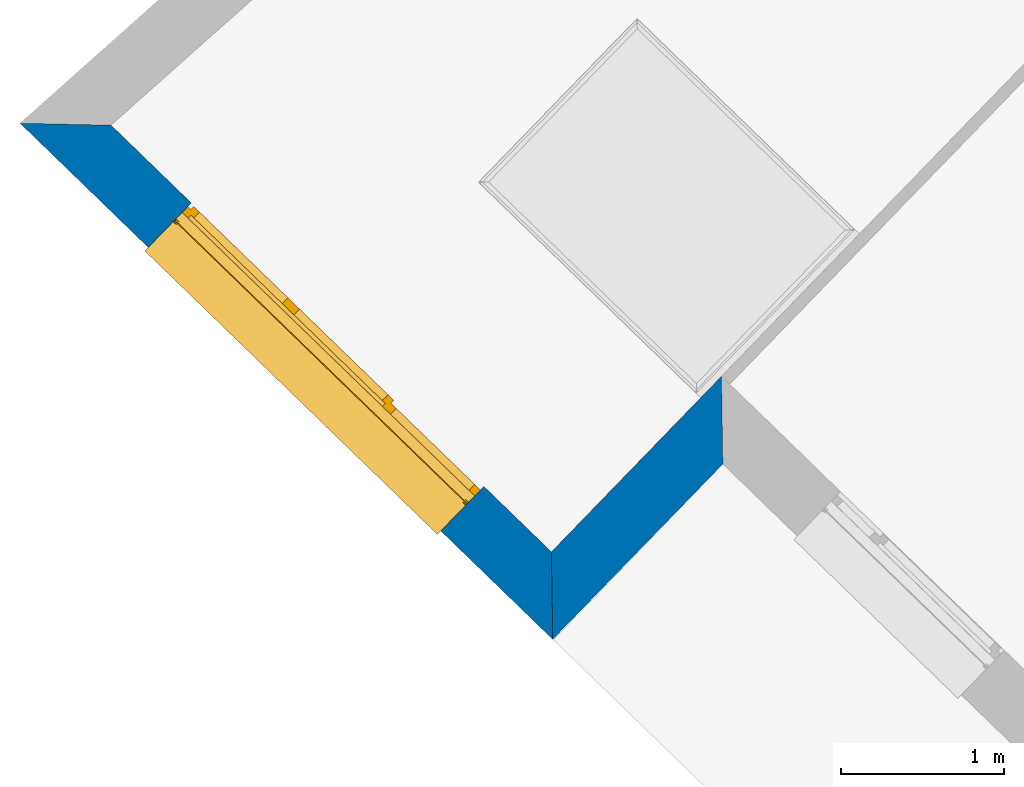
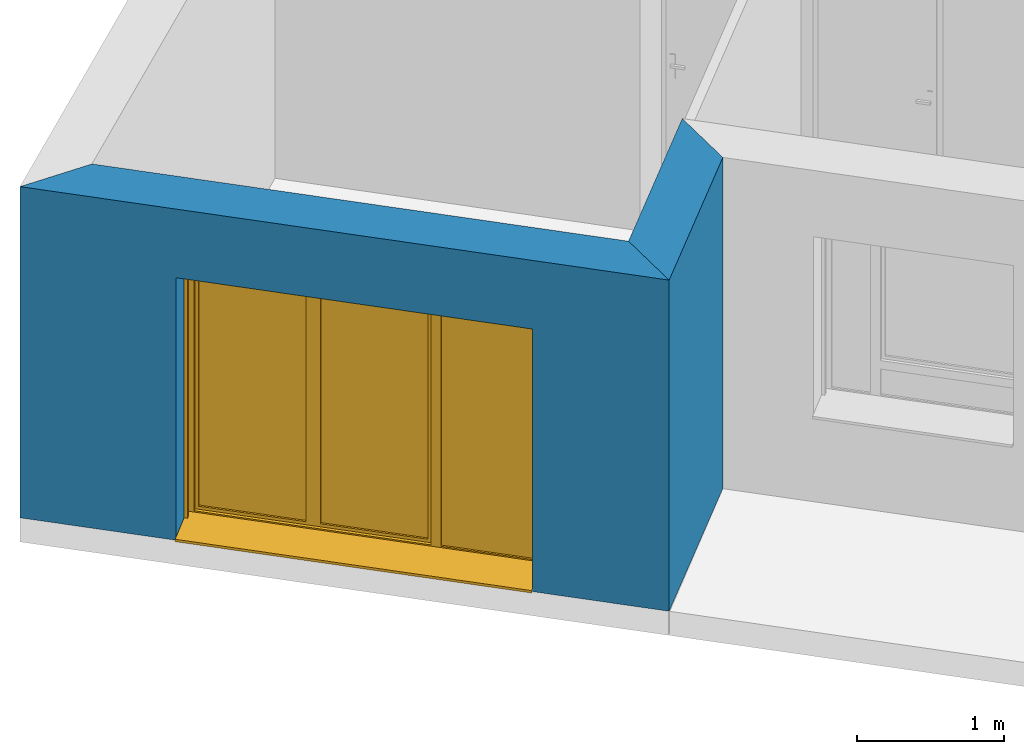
# One storey, part 17 of 195: 2 walls, 1 window, 1 opening.
"""IFC2X3 building model written with IfcOpenShell, lengths in metres."""

import ifcopenshell
import ifcopenshell.guid

model = None  # the IFC model being written
_history = None  # IfcOwnerHistory: only IFC2X3 demands one
_inside = {}  # id of a spatial element -> (the spatial element, [elements in it])
_under = {}  # id of a project, library or spatial element -> (it, [spatial elements below it])
_declared = {}  # id of a project -> (the project, [libraries it declares])
_typed = {}  # id of a type object -> (the type object, [elements of that type])
_made_of = {}  # id of a material, layer set ... -> (it, [elements and type objects made of it])


def new_model(schema):
    """Start an empty IFC model of exactly this schema.

    Asked for "IFC4X3", IfcOpenShell would pick the latest addendum, in which some entities
    have other attributes; the version numbers below select the first issue.
    IFC2X3 requires an IfcOwnerHistory on every rooted entity: one is made here for all.
    """
    global model, _history
    if schema == "IFC4X3":
        model = ifcopenshell.file(schema_version=(4, 3, 0, 0))
    else:
        model = ifcopenshell.file(schema=schema)
    _inside.clear()
    _under.clear()
    _declared.clear()
    _typed.clear()
    _made_of.clear()
    _history = None
    if model.schema == "IFC2X3":
        org = make("IfcOrganization", Name="unknown")
        user = make(
            "IfcPersonAndOrganization",
            ThePerson=make("IfcPerson", FamilyName="unknown"),
            TheOrganization=org,
        )
        app = make(
            "IfcApplication",
            ApplicationDeveloper=org,
            Version="unknown",
            ApplicationFullName="unknown",
            ApplicationIdentifier="unknown",
        )
        _history = make(
            "IfcOwnerHistory",
            OwningUser=user,
            OwningApplication=app,
            ChangeAction="ADDED",
            CreationDate=0,
        )
    return model


def make(cls, **values):
    """One entity of the class cls with the attributes given. An attribute that is None is left unset."""
    return model.create_entity(
        cls, **{name: value for name, value in values.items() if value is not None}
    )


def entity(cls, *values):
    """Any entity or typed value of the class cls, its attributes in the order of the schema. None: left unset."""
    e = model.create_entity(cls)
    for i, value in enumerate(values):
        if value is not None:
            e[i] = value
    return e


def rooted(cls, **values):
    """An entity with a GlobalId (a new one), such as an element, a storey or a relation."""
    return make(cls, GlobalId=ifcopenshell.guid.new(), OwnerHistory=_history, **values)


def si_unit(unit_type, name, prefix=None):
    """IfcSIUnit, for example si_unit("LENGTHUNIT", "METRE", prefix="MILLI")."""
    return make("IfcSIUnit", UnitType=unit_type, Prefix=prefix, Name=name)


def converted_unit(unit_type, name, factor, base, dimensions=None, offset=None):
    """IfcConversionBasedUnit, such as the inch: factor (a typed value) times the base unit."""
    return make(
        "IfcConversionBasedUnit"
        if offset is None
        else "IfcConversionBasedUnitWithOffset",
        ConversionOffset=offset,
        Dimensions=None
        if dimensions is None
        else entity("IfcDimensionalExponents", *dimensions),
        UnitType=unit_type,
        Name=name,
        ConversionFactor=make(
            "IfcMeasureWithUnit", ValueComponent=factor, UnitComponent=base
        ),
    )


def derived_unit(unit_type, elements):
    """IfcDerivedUnit: a product of units, each with its exponent."""
    return make(
        "IfcDerivedUnit",
        Elements=[
            make("IfcDerivedUnitElement", Unit=unit, Exponent=power)
            for unit, power in elements
        ],
        UnitType=unit_type,
    )


def money_unit(currency):
    """IfcMonetaryUnit."""
    return make("IfcMonetaryUnit", Currency=currency)


def assignment(units):
    """IfcUnitAssignment: the units of a project."""
    return None if units is None else make("IfcUnitAssignment", Units=units)


def point(xyz):
    """IfcCartesianPoint."""
    return None if xyz is None else make("IfcCartesianPoint", Coordinates=xyz)


def direction(xyz):
    """IfcDirection."""
    return None if xyz is None else make("IfcDirection", DirectionRatios=xyz)


def frame(location, z_axis=None, x_axis=None):
    """IfcAxis2Placement3D, a coordinate frame: its origin and axes. An axis left out is left unset."""
    return make(
        "IfcAxis2Placement3D",
        Location=point(location),
        Axis=direction(z_axis),
        RefDirection=direction(x_axis),
    )


def origin_with_axes():
    """The frame at (0, 0, 0) with the z axis (0, 0, 1) and the x axis (1, 0, 0) written out."""
    return frame((0.0, 0.0, 0.0), z_axis=(0.0, 0.0, 1.0), x_axis=(1.0, 0.0, 0.0))


def place(relative_to, where):
    """IfcLocalPlacement: puts the frame where relative to a parent placement (None: the world)."""
    return make(
        "IfcLocalPlacement", PlacementRelTo=relative_to, RelativePlacement=where
    )


def context(
    kind, dimensions, precision=None, world=None, true_north=None, identifier=None
):
    """IfcGeometricRepresentationContext, for example the 3D "Model" context."""
    return make(
        "IfcGeometricRepresentationContext",
        ContextIdentifier=identifier,
        ContextType=kind,
        CoordinateSpaceDimension=dimensions,
        Precision=precision,
        WorldCoordinateSystem=world,
        TrueNorth=true_north,
    )


def subcontext(parent, identifier, kind, view, scale=None):
    """IfcGeometricRepresentationSubContext, for example "Body" below "Model"."""
    return make(
        "IfcGeometricRepresentationSubContext",
        ContextIdentifier=identifier,
        ContextType=kind,
        ParentContext=parent,
        TargetScale=scale,
        TargetView=view,
    )


def project(units=None, contexts=None):
    """IfcProject with its units and contexts."""
    return rooted(
        "IfcProject",
        Name="project",
        RepresentationContexts=contexts,
        UnitsInContext=assignment(units),
    )


def spatial(cls, under=None, at=None, **own):
    """A site, building, storey or space (cls), placed at a placement, below another one or the project."""
    s = rooted(cls, ObjectPlacement=at, **own)
    if under is not None:
        _under.setdefault(under.id(), (under, []))[1].append(s)
    return s


def polyline(points):
    """IfcPolyline through the points."""
    return make("IfcPolyline", Points=[point(p) for p in points])


def outline(outer, holes=None, kind="AREA"):
    """IfcArbitraryClosedProfileDef: a profile drawn as a closed curve; with holes, ...WithVoids."""
    if holes is None:
        return make("IfcArbitraryClosedProfileDef", ProfileType=kind, OuterCurve=outer)
    return make(
        "IfcArbitraryProfileDefWithVoids",
        ProfileType=kind,
        OuterCurve=outer,
        InnerCurves=holes,
    )


def extrude(swept, where, along, depth):
    """IfcExtrudedAreaSolid: the profile swept, set in the frame where, extruded along a direction by depth."""
    return make(
        "IfcExtrudedAreaSolid",
        SweptArea=swept,
        Position=where,
        ExtrudedDirection=direction(along),
        Depth=depth,
    )


def faces_of(points, faces, orient=None, outer=None):
    """IfcFace entities. A face is a list of loops; a loop is a list of indices into points, from 0.

    orient and outer hold one flag for each loop. By default every Orientation is true, the
    first loop of a face is its IfcFaceOuterBound and the others are IfcFaceBound.
    """
    made = []
    for i, loops in enumerate(faces):
        bounds = []
        for j, loop in enumerate(loops):
            is_outer = j == 0 if outer is None else outer[i][j]
            bounds.append(
                make(
                    "IfcFaceOuterBound" if is_outer else "IfcFaceBound",
                    Bound=make("IfcPolyLoop", Polygon=[points[k] for k in loop]),
                    Orientation=True if orient is None else orient[i][j],
                )
            )
        made.append(make("IfcFace", Bounds=bounds))
    return made


def open_shell(faces, orient=None, outer=None):
    """The faces of one IfcOpenShell. surface_model builds it on its shared points."""
    return ("IfcOpenShell", faces, orient, outer)


def faceted_brep(points, faces, orient=None, outer=None, voids=None):
    """IfcFacetedBrep: a solid bounded by flat faces; with voids (closed shells), ...WithVoids."""
    shared = [point(p) for p in points]
    hull = make("IfcClosedShell", CfsFaces=faces_of(shared, faces, orient, outer))
    if voids is None:
        return make("IfcFacetedBrep", Outer=hull)
    return make(
        "IfcFacetedBrepWithVoids",
        Outer=hull,
        Voids=[
            make(cls, CfsFaces=faces_of(shared, fs, o, b)) for cls, fs, o, b in voids
        ],
    )


def surface_model(cls, points, shells):
    """IfcFaceBasedSurfaceModel or IfcShellBasedSurfaceModel (cls): surfaces that need not close."""
    shared = [point(p) for p in points]
    made = [make(c, CfsFaces=faces_of(shared, fs, o, b)) for c, fs, o, b in shells]
    if cls == "IfcFaceBasedSurfaceModel":
        return make(cls, FbsmFaces=made)
    return make(cls, SbsmBoundary=made)


def shape(context_of_items, identifier, shape_type, items):
    """IfcShapeRepresentation: the items that make up one representation, for example the "Body"."""
    return make(
        "IfcShapeRepresentation",
        ContextOfItems=context_of_items,
        RepresentationIdentifier=identifier,
        RepresentationType=shape_type,
        Items=items,
    )


def source(mapping_origin, context_of_items, identifier, shape_type, items):
    """IfcRepresentationMap: a shape defined once, which mapped items show again and again."""
    return make(
        "IfcRepresentationMap",
        MappingOrigin=mapping_origin,
        MappedRepresentation=shape(context_of_items, identifier, shape_type, items),
    )


def transform(
    local_origin,
    x_axis=None,
    y_axis=None,
    z_axis=None,
    scale=None,
    scale2=None,
    scale3=None,
    uniform=True,
):
    """IfcCartesianTransformationOperator3D, or its non-uniform kind. x_axis, y_axis, z_axis: its Axis1, 2, 3."""
    if uniform:
        return make(
            "IfcCartesianTransformationOperator3D",
            Axis1=direction(x_axis),
            Axis2=direction(y_axis),
            LocalOrigin=point(local_origin),
            Scale=scale,
            Axis3=direction(z_axis),
        )
    return make(
        "IfcCartesianTransformationOperator3DnonUniform",
        Axis1=direction(x_axis),
        Axis2=direction(y_axis),
        LocalOrigin=point(local_origin),
        Scale=scale,
        Axis3=direction(z_axis),
        Scale2=scale2,
        Scale3=scale3,
    )


def mapped(mapping_source, mapping_target):
    """IfcMappedItem: shows the shape of a source again, moved by a transform."""
    return make(
        "IfcMappedItem", MappingSource=mapping_source, MappingTarget=mapping_target
    )


def material(Name=None, Category=None):
    """IfcMaterial."""
    return make("IfcMaterial", Name=Name, Category=Category)


def layer(
    of_material, thickness, ventilated=None, Name=None, Category=None, Priority=None
):
    """IfcMaterialLayer: one layer of a wall or slab, of a material (None: an air gap)."""
    return make(
        "IfcMaterialLayer",
        Material=of_material,
        LayerThickness=thickness,
        IsVentilated=ventilated,
        Name=Name,
        Category=Category,
        Priority=Priority,
    )


def layer_set(layers, Name=None):
    """IfcMaterialLayerSet."""
    return make("IfcMaterialLayerSet", MaterialLayers=layers, LayerSetName=Name)


def layer_usage(for_layer_set, set_direction, sense, offset, extent=None):
    """IfcMaterialLayerSetUsage: how a layer set lies in its element."""
    return make(
        "IfcMaterialLayerSetUsage",
        ForLayerSet=for_layer_set,
        LayerSetDirection=set_direction,
        DirectionSense=sense,
        OffsetFromReferenceLine=offset,
        ReferenceExtent=extent,
    )


def made_of(thing, what):
    """Note that an element or type object is made of a material, layer set ...; save() writes the relation."""
    if what is not None:
        _made_of.setdefault(what.id(), (what, []))[1].append(thing)
    return thing


def type_object(cls, material=None, **own):
    """A type object (cls), such as IfcWallType, which elements share."""
    return made_of(rooted(cls, **own), material)


def element(
    cls,
    number,
    at=None,
    inside=None,
    cuts=None,
    type_object=None,
    material=None,
    context=None,
    identifier="Body",
    shape_type=None,
    held_by="IfcProductDefinitionShape",
    body=None,
    shapes=None,
    **own,
):
    """One element of the class cls, such as IfcWall. Its Tag is "e" and its number.

    at: its placement. inside: the storey or other place that contains it. cuts: it is an
    opening in that element (IfcRelVoidsElement). A single representation is given by context,
    identifier, shape_type and body (its items); several are given by shapes. held_by: the class
    of the entity that holds the representations. save() writes the other relations.
    """
    e = rooted(cls, Tag="e%d" % number, ObjectPlacement=at, **own)
    if body is not None:
        shapes = [shape(context, identifier, shape_type, body)]
    if shapes is not None:
        e.Representation = make(held_by, Representations=shapes)
    if inside is not None:
        _inside.setdefault(inside.id(), (inside, []))[1].append(e)
    if cuts is not None:
        rooted(
            "IfcRelVoidsElement", RelatingBuildingElement=cuts, RelatedOpeningElement=e
        )
    if type_object is not None:
        _typed.setdefault(type_object.id(), (type_object, []))[1].append(e)
    return made_of(e, material)


def fill(opening, filler):
    """IfcRelFillsElement: the door or window that sits in an opening."""
    return rooted(
        "IfcRelFillsElement",
        RelatingOpeningElement=opening,
        RelatedBuildingElement=filler,
    )


def aggregate(whole, parts):
    """IfcRelAggregates: a whole, such as a stair, and the parts it consists of."""
    return rooted("IfcRelAggregates", RelatingObject=whole, RelatedObjects=parts)


def save(model, path):
    """Write the relations noted so far, then the file.

    IfcRelAggregates (storeys below a building ...), IfcRelContainedInSpatialStructure (elements
    in a storey), IfcRelDefinesByType, IfcRelAssociatesMaterial and IfcRelDeclares: one each for
    every whole, place, type object, material and project.
    """
    for whole, parts in _under.values():
        aggregate(whole, parts)
    for where, things in _inside.values():
        rooted(
            "IfcRelContainedInSpatialStructure",
            RelatedElements=things,
            RelatingStructure=where,
        )
    for kind, things in _typed.values():
        rooted("IfcRelDefinesByType", RelatedObjects=things, RelatingType=kind)
    for what, things in _made_of.values():
        rooted("IfcRelAssociatesMaterial", RelatedObjects=things, RelatingMaterial=what)
    for by, libraries in _declared.values():
        rooted("IfcRelDeclares", RelatingContext=by, RelatedDefinitions=libraries)
    model.write(path)


model = new_model("IFC2X3")

# Units and contexts
model_context = context("Model", 3, precision=1e-05, world=origin_with_axes(), true_north=direction((0.0, 1.0)))
body_context = subcontext(model_context, "Body", "Model", "MODEL_VIEW")
ifc_project = project(units=[si_unit("LENGTHUNIT", "METRE"), si_unit("AREAUNIT", "SQUARE_METRE"), si_unit("VOLUMEUNIT", "CUBIC_METRE"), converted_unit("PLANEANGLEUNIT", "DEGREE", entity("IfcPlaneAngleMeasure", 0.0174532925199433), si_unit("PLANEANGLEUNIT", "RADIAN"), dimensions=[0, 0, 0, 0, 0, 0, 0]), money_unit("CHF"), converted_unit("TIMEUNIT", "Year", entity("IfcTimeMeasure", 31557600.0), si_unit("TIMEUNIT", "SECOND"), dimensions=[0, 0, 1, 0, 0, 0, 0]), si_unit("MASSUNIT", "GRAM", prefix="KILO"), si_unit("THERMODYNAMICTEMPERATUREUNIT", "DEGREE_CELSIUS"), si_unit("LUMINOUSINTENSITYUNIT", "LUMEN"), si_unit("ENERGYUNIT", "JOULE", prefix="MEGA"), derived_unit("THERMALCONDUCTANCEUNIT", [(si_unit("POWERUNIT", "WATT"), 1), (si_unit("LENGTHUNIT", "METRE"), -1), (si_unit("THERMODYNAMICTEMPERATUREUNIT", "KELVIN"), -1)]), derived_unit("SPECIFICHEATCAPACITYUNIT", [(si_unit("ENERGYUNIT", "JOULE"), 1), (si_unit("MASSUNIT", "GRAM", prefix="KILO"), -1), (si_unit("THERMODYNAMICTEMPERATUREUNIT", "KELVIN"), -1)]), derived_unit("MASSDENSITYUNIT", [(si_unit("MASSUNIT", "GRAM", prefix="KILO"), 1), (si_unit("VOLUMEUNIT", "CUBIC_METRE"), -1)])], contexts=[model_context])

# Site, building, storey
site_placement = place(None, origin_with_axes())
site = spatial("IfcSite", under=ifc_project, at=site_placement, Name="Site", CompositionType="ELEMENT")
building_placement = place(site_placement, origin_with_axes())
building = spatial("IfcBuilding", under=site, at=building_placement, Name="Bâtiment", CompositionType="ELEMENT")
storey_placement = place(building_placement, origin_with_axes())
storey = spatial("IfcBuildingStorey", under=building, at=storey_placement, Name="rdc", CompositionType="ELEMENT", Elevation=0.0)

# Wall, opening, window
ifc_material_1 = material(Name="Parpaing 312445824")
ifc_layer_1 = layer(ifc_material_1, 0.22, ventilated="UNKNOWN")
ifc_material_2 = material(Name="Isolant styromousse 301821074")
ifc_layer_2 = layer(ifc_material_2, 0.16, ventilated="UNKNOWN")
ifc_layer_set = layer_set([ifc_layer_1, ifc_layer_2], Name="isol int 22+16 0836643197")
ifc_layer_usage_1 = layer_usage(ifc_layer_set, "AXIS2", "NEGATIVE", 0.0)
wall_type = type_object("IfcWallType", Name="isol int 22+16 0836643197 380", PredefinedType="NOTDEFINED")
wall_1_placement = place(storey_placement, frame((9514.528560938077, -1065.587925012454, 57.7), z_axis=(0.0, 0.0, 1.0), x_axis=(-0.7181763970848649, 0.6958610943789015, 0.0)))
wall_1 = element("IfcWallStandardCase", 1, at=wall_1_placement, inside=storey, type_object=wall_type, material=ifc_layer_usage_1, Name="Mur-115", context=body_context, shape_type="SweptSolid", body=[
    extrude(outline(polyline([(0.3799999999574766, -0.3800000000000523), (4.143225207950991, -0.3800000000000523), (4.552444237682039, 0.0), (0.0, 0.0), (0.3799999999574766, -0.3800000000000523)])), origin_with_axes(), (0.0, 0.0, 1.0), 2.75),
])
opening_placement = place(wall_1_placement, frame((2.206747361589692, 0.0, 0.0), z_axis=(0.0, 0.0, 1.0), x_axis=(1.0, 0.0, 0.0)))
opening = element("IfcOpeningElement", 2, at=opening_placement, cuts=wall_1, Name="Fen-050", context=body_context, shape_type="Brep", body=[
    faceted_brep([(1.249999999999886, -0.4799999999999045, 2.18), (-1.250000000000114, -0.4800000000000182, 2.18), (-1.250000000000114, -2.656088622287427, 2.18), (1.249999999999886, -2.656088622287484, 2.18), (1.249999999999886, -0.4799999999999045, 2.380000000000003), (-1.250000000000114, -0.4800000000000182, 2.380000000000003), (-1.250000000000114, -0.3000000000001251, 2.18), (-1.250000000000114, -0.3000000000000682, 0.0), (-1.250000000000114, -2.656088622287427, 0.0), (1.249999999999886, -2.656088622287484, 0.0), (1.25, -0.3000000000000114, 2.18), (1.249999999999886, -0.3000000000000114, 0.0), (1.249999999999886, -0.2199999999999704, 2.18), (1.249999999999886, -0.2199999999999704, 2.380000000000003), (-1.250000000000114, -0.2199999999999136, 2.380000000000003), (-1.250000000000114, -0.2199999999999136, 2.18), (-1.250000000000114, 2.276088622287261, 2.18), (-1.250000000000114, 2.276088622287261, 0.0), (1.249999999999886, 2.276088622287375, 0.0), (1.249999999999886, 2.276088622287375, 2.18)], [[[0, 1, 2, 3]], [[1, 0, 4, 5]], [[1, 6, 7, 8, 2]], [[2, 8, 9, 3]], [[10, 0, 3, 9, 11]], [[0, 10, 12, 13, 4]], [[14, 5, 4, 13]], [[6, 1, 5, 14, 15]], [[6, 15, 16, 17, 7]], [[7, 11, 9, 8]], [[12, 10, 11, 18, 19]], [[12, 15, 14, 13]], [[15, 12, 19, 16]], [[19, 18, 17, 16]], [[11, 7, 17, 18]]]),
])
window_style = type_object("IfcWindowStyle", Name="Fenêtre variable 27", ConstructionType="NOTDEFINED", OperationType="TRIPLE_PANEL_VERTICAL", ParameterTakesPrecedence=False, Sizeable=False)
shared_shape = source(origin_with_axes(), body_context, "Body", "SurfaceModel", [
    surface_model("IfcShellBasedSurfaceModel", [(-1.25, -0.05100000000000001, 0.05), (-1.25, -0.05100000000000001, 0.04), (1.25, -0.05100000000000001, 0.04000000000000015), (1.25, -0.05100000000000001, 0.05000000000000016), (-1.25, -0.3799999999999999, 0.02899999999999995), (1.25, -0.3799999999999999, 0.02900000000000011), (-1.25, -0.3799999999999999, 0.008999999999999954), (1.25, -0.3799999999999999, 0.009000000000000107), (-1.25, -0.3699999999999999, 0.01899999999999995), (1.25, -0.3699999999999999, 0.01900000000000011)], [open_shell([[[0, 1, 2, 3]], [[1, 4, 5, 2]], [[4, 6, 7, 5]], [[6, 8, 9, 7]]])]),
    faceted_brep([(-1.25, -0.1300000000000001, 2.38), (-1.247, -0.1300000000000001, 2.38), (-1.247, 0.1299999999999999, 2.38), (-1.25, 0.1299999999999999, 2.38), (-1.25, -0.1300000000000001, 2.18), (-1.247, -0.1300000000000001, 2.18), (-1.247, 0.1299999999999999, 2.18), (-1.25, 0.1299999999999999, 2.18)], [[[0, 1, 2, 3]], [[4, 5, 1, 0]], [[1, 5, 6, 2]], [[3, 2, 6, 7]], [[0, 3, 7, 4]], [[7, 6, 5, 4]]]),
    faceted_brep([(1.247, -0.1299999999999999, 2.38), (1.25, -0.1299999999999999, 2.38), (1.25, 0.1300000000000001, 2.38), (1.247, 0.1300000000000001, 2.38), (1.247, -0.1299999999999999, 2.18), (1.25, -0.1299999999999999, 2.18), (1.25, 0.1300000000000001, 2.18), (1.247, 0.1300000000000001, 2.18)], [[[0, 1, 2, 3]], [[4, 5, 1, 0]], [[1, 5, 6, 2]], [[3, 2, 6, 7]], [[0, 3, 7, 4]], [[7, 6, 5, 4]]]),
    faceted_brep([(-1.247, -0.1300000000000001, 2.18), (1.247, -0.1299999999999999, 2.18), (1.247, -0.1299999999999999, 2.38), (-1.247, -0.1300000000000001, 2.38), (-1.247, -0.1270000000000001, 2.18), (1.247, -0.1269999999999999, 2.18), (1.247, -0.1269999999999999, 2.377), (1.247, 0.1270000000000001, 2.377), (1.247, 0.1270000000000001, 2.183), (1.247, -0.1079999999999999, 2.183), (1.247, -0.1079999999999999, 2.18), (1.247, 0.1300000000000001, 2.18), (1.247, 0.1300000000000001, 2.38), (-1.247, 0.1299999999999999, 2.38), (-1.247, 0.1299999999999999, 2.18), (-1.247, -0.1080000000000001, 2.18), (-1.247, -0.1080000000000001, 2.183), (-1.247, 0.1269999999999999, 2.183), (-1.247, 0.1269999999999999, 2.377), (-1.247, -0.1270000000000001, 2.377)], [[[0, 1, 2, 3]], [[4, 5, 1, 0]], [[1, 5, 6, 7, 8, 9, 10, 11, 12, 2]], [[3, 2, 12, 13]], [[0, 3, 13, 14, 15, 16, 17, 18, 19, 4]], [[19, 6, 5, 4]], [[18, 7, 6, 19]], [[17, 8, 7, 18]], [[16, 9, 8, 17]], [[15, 10, 9, 16]], [[14, 11, 10, 15]], [[13, 12, 11, 14]]]),
    faceted_brep([(-1.244, -0.08075423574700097, 2.265760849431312), (-1.244, -0.08200000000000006, 2.28), (-1.244, -0.08075423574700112, 2.294239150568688), (-1.244, -0.07705479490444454, 2.308045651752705), (-1.244, -0.07101408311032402, 2.321), (-1.244, -0.06281564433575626, 2.332708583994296), (-1.244, -0.05270858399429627, 2.342815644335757), (-1.244, -0.04100000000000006, 2.351014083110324), (-1.244, -0.0280456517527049, 2.357054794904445), (-1.244, -0.01423915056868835, 2.360754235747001), (-1.244, 0.0, 2.362), (-1.244, 0.01423915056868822, 2.360754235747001), (-1.244, 0.02804565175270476, 2.357054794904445), (-1.244, 0.04099999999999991, 2.351014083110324), (-1.244, 0.05270858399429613, 2.342815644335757), (-1.244, 0.0628156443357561, 2.332708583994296), (-1.244, 0.07101408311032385, 2.321), (-1.244, 0.07705479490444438, 2.308045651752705), (-1.244, 0.08075423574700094, 2.294239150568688), (-1.244, 0.08199999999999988, 2.28), (-1.244, 0.08075423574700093, 2.265760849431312), (-1.244, 0.07705479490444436, 2.251954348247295), (-1.244, 0.07101408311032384, 2.239), (-1.244, 0.06281564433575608, 2.227291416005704), (-1.244, 0.05270858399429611, 2.217184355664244), (-1.244, 0.0409999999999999, 2.208985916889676), (-1.244, 0.02804565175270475, 2.202945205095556), (-1.244, 0.01423915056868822, 2.199245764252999), (-1.244, 0.0, 2.198), (-1.244, -0.01423915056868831, 2.199245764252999), (-1.244, -0.02804565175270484, 2.202945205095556), (-1.244, -0.04099999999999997, 2.208985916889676), (-1.244, -0.05270858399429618, 2.217184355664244), (-1.244, -0.06281564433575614, 2.227291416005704), (-1.244, -0.07101408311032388, 2.239), (-1.244, -0.07705479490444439, 2.251954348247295), (1.244, -0.08075423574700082, 2.265760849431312), (1.244, -0.0819999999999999, 2.28), (1.244, -0.08075423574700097, 2.294239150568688), (1.244, -0.07705479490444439, 2.308045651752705), (1.244, -0.07101408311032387, 2.321), (1.244, -0.06281564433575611, 2.332708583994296), (1.244, -0.05270858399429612, 2.342815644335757), (1.244, -0.0409999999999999, 2.351014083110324), (1.244, -0.02804565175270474, 2.357054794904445), (1.244, -0.0142391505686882, 2.360754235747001), (1.244, 0.0, 2.362), (1.244, 0.01423915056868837, 2.360754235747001), (1.244, 0.02804565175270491, 2.357054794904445), (1.244, 0.04100000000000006, 2.351014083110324), (1.244, 0.05270858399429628, 2.342815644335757), (1.244, 0.06281564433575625, 2.332708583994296), (1.244, 0.071014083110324, 2.321), (1.244, 0.07705479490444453, 2.308045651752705), (1.244, 0.0807542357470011, 2.294239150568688), (1.244, 0.08200000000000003, 2.28), (1.244, 0.08075423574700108, 2.265760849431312), (1.244, 0.07705479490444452, 2.251954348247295), (1.244, 0.07101408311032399, 2.239), (1.244, 0.06281564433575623, 2.227291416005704), (1.244, 0.05270858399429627, 2.217184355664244), (1.244, 0.04100000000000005, 2.208985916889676), (1.244, 0.02804565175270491, 2.202945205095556), (1.244, 0.01423915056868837, 2.199245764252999), (1.244, 0.0, 2.198), (1.244, -0.01423915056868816, 2.199245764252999), (1.244, -0.02804565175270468, 2.202945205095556), (1.244, -0.04099999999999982, 2.208985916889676), (1.244, -0.05270858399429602, 2.217184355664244), (1.244, -0.06281564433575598, 2.227291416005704), (1.244, -0.07101408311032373, 2.239), (1.244, -0.07705479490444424, 2.251954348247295)], [[[0, 1, 2, 3, 4, 5, 6, 7, 8, 9, 10, 11, 12, 13, 14, 15, 16, 17, 18, 19, 20, 21, 22, 23, 24, 25, 26, 27, 28, 29, 30, 31, 32, 33, 34, 35]], [[0, 36, 37, 1]], [[1, 37, 38, 2]], [[2, 38, 39, 3]], [[3, 39, 40, 4]], [[4, 40, 41, 5]], [[5, 41, 42, 6]], [[6, 42, 43, 7]], [[7, 43, 44, 8]], [[8, 44, 45, 9]], [[9, 45, 46, 10]], [[10, 46, 47, 11]], [[11, 47, 48, 12]], [[12, 48, 49, 13]], [[13, 49, 50, 14]], [[14, 50, 51, 15]], [[15, 51, 52, 16]], [[16, 52, 53, 17]], [[17, 53, 54, 18]], [[18, 54, 55, 19]], [[19, 55, 56, 20]], [[20, 56, 57, 21]], [[21, 57, 58, 22]], [[22, 58, 59, 23]], [[23, 59, 60, 24]], [[24, 60, 61, 25]], [[25, 61, 62, 26]], [[26, 62, 63, 27]], [[27, 63, 64, 28]], [[28, 64, 65, 29]], [[29, 65, 66, 30]], [[30, 66, 67, 31]], [[31, 67, 68, 32]], [[32, 68, 69, 33]], [[33, 69, 70, 34]], [[34, 70, 71, 35]], [[35, 71, 36, 0]], [[36, 71, 70, 69, 68, 67, 66, 65, 64, 63, 62, 61, 60, 59, 58, 57, 56, 55, 54, 53, 52, 51, 50, 49, 48, 47, 46, 45, 44, 43, 42, 41, 40, 39, 38, 37]]]),
    faceted_brep([(1.25, -0.105, 0.03), (1.25, -0.1049999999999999, 2.18), (1.25, -0.1299999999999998, 2.18), (1.25, -0.13, 0.03), (1.225, -0.105, 0.03), (1.225, -0.1049999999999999, 2.18), (1.225, -0.1079999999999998, 2.18), (1.247, -0.1079999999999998, 2.18), (1.247, -0.1269999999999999, 2.18), (1.225, -0.1269999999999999, 2.18), (1.225, -0.1299999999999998, 2.18), (1.225, -0.13, 0.03), (1.225, -0.127, 0.03), (1.247, -0.127, 0.03), (1.247, -0.108, 0.03), (1.225, -0.108, 0.03)], [[[0, 1, 2, 3]], [[4, 5, 1, 0]], [[1, 5, 6, 7, 8, 9, 10, 2]], [[3, 2, 10, 11]], [[0, 3, 11, 12, 13, 14, 15, 4]], [[15, 6, 5, 4]], [[14, 7, 6, 15]], [[13, 8, 7, 14]], [[12, 9, 8, 13]], [[11, 10, 9, 12]]]),
    faceted_brep([(-1.25, -0.105, 0.03), (-1.25, -0.13, 0.03), (-1.25, -0.1299999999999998, 2.18), (-1.25, -0.1049999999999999, 2.18), (-1.225, -0.105, 0.03), (-1.225, -0.108, 0.03), (-1.247, -0.108, 0.03), (-1.247, -0.127, 0.03), (-1.225, -0.127, 0.03), (-1.225, -0.13, 0.03), (-1.225, -0.1299999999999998, 2.18), (-1.225, -0.1269999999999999, 2.18), (-1.247, -0.1269999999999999, 2.18), (-1.247, -0.1079999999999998, 2.18), (-1.225, -0.1079999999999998, 2.18), (-1.225, -0.1049999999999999, 2.18)], [[[0, 1, 2, 3]], [[0, 4, 5, 6, 7, 8, 9, 1]], [[1, 9, 10, 2]], [[3, 2, 10, 11, 12, 13, 14, 15]], [[4, 0, 3, 15]], [[5, 4, 15, 14]], [[6, 5, 14, 13]], [[7, 6, 13, 12]], [[8, 7, 12, 11]], [[9, 8, 11, 10]]]),
    surface_model("IfcShellBasedSurfaceModel", [(-1.247, -0.115, 2.28), (1.247, -0.1149999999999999, 2.28), (1.247, -0.1199999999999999, 2.28), (-1.247, -0.1200000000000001, 2.28), (-1.247, -0.115, 2.28), (-1.247, -0.1200000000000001, 2.28), (1.247, -0.1199999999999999, 2.28), (1.247, -0.1149999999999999, 2.28)], [open_shell([[[0, 1, 2, 3]], [[4, 5, 6, 7]]])]),
    faceted_brep([(-1.247, -0.115, 2.28), (1.247, -0.1149999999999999, 2.28), (1.247, -0.1166666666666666, 2.263333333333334), (-1.247, -0.1166666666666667, 2.263333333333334), (-1.247, -0.1200000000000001, 2.28), (1.247, -0.1199999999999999, 2.28), (1.247, -0.1216666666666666, 2.263333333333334), (1.247, -0.1216666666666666, 2.246666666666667), (1.247, -0.1199999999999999, 2.23), (1.247, -0.1149999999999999, 2.23), (1.247, -0.1166666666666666, 2.246666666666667), (-1.247, -0.1166666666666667, 2.246666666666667), (-1.247, -0.115, 2.23), (-1.247, -0.1200000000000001, 2.23), (-1.247, -0.1216666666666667, 2.246666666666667), (-1.247, -0.1216666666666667, 2.263333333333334)], [[[0, 1, 2, 3]], [[4, 5, 1, 0]], [[1, 5, 6, 7, 8, 9, 10, 2]], [[3, 2, 10, 11]], [[0, 3, 11, 12, 13, 14, 15, 4]], [[15, 6, 5, 4]], [[14, 7, 6, 15]], [[13, 8, 7, 14]], [[12, 9, 8, 13]], [[11, 10, 9, 12]]]),
    faceted_brep([(-1.247, -0.115, 2.23), (1.247, -0.1149999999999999, 2.23), (1.247, -0.1166666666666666, 2.213333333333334), (-1.247, -0.1166666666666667, 2.213333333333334), (-1.247, -0.1200000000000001, 2.23), (1.247, -0.1199999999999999, 2.23), (1.247, -0.1216666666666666, 2.213333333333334), (1.247, -0.1216666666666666, 2.196666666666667), (1.247, -0.1199999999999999, 2.180000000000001), (1.247, -0.1149999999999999, 2.180000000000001), (1.247, -0.1166666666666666, 2.196666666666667), (-1.247, -0.1166666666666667, 2.196666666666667), (-1.247, -0.115, 2.180000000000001), (-1.247, -0.1200000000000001, 2.180000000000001), (-1.247, -0.1216666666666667, 2.196666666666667), (-1.247, -0.1216666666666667, 2.213333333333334)], [[[0, 1, 2, 3]], [[4, 5, 1, 0]], [[1, 5, 6, 7, 8, 9, 10, 2]], [[3, 2, 10, 11]], [[0, 3, 11, 12, 13, 14, 15, 4]], [[15, 6, 5, 4]], [[14, 7, 6, 15]], [[13, 8, 7, 14]], [[12, 9, 8, 13]], [[11, 10, 9, 12]]]),
    faceted_brep([(-1.225, 0.0, 2.13), (-1.25, 0.0, 2.13), (-1.25, -0.05000000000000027, 2.13), (-1.2, -0.05000000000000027, 2.13), (-1.2, -0.02500000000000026, 2.13), (-1.225, -0.02500000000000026, 2.13), (-1.225, 0.0, 0.05000000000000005), (-1.25, 0.0, 0.05000000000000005), (-1.25, -0.05000000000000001, 0.05000000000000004), (-1.2, -0.05000000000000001, 0.05000000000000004), (-1.2, -0.02500000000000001, 0.05000000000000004), (-1.225, -0.02500000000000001, 0.05000000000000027)], [[[0, 1, 2, 3, 4, 5]], [[6, 7, 1, 0]], [[1, 7, 8, 2]], [[2, 8, 9, 3]], [[4, 3, 9, 10]], [[10, 11, 5, 4]], [[5, 11, 6, 0]], [[11, 10, 9, 8, 7, 6]]]),
    faceted_brep([(0.4600000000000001, -0.02500000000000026, 2.13), (0.4600000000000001, -0.05000000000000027, 2.13), (0.5300000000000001, -0.05000000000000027, 2.13), (0.5300000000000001, 0.0, 2.13), (0.4850000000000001, 0.0, 2.13), (0.4850000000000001, -0.02500000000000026, 2.13), (0.4600000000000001, -0.02500000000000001, 0.05000000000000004), (0.4600000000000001, -0.05000000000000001, 0.05000000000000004), (0.5300000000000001, -0.05000000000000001, 0.05000000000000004), (0.5300000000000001, 0.0, 0.05000000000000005), (0.4850000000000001, 0.0, 0.05000000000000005), (0.4850000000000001, -0.02500000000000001, 0.05000000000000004)], [[[0, 1, 2, 3, 4, 5]], [[6, 7, 1, 0]], [[8, 2, 1, 7]], [[9, 3, 2, 8]], [[4, 3, 9, 10]], [[10, 11, 5, 4]], [[5, 11, 6, 0]], [[11, 10, 9, 8, 7, 6]]]),
    faceted_brep([(0.4600000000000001, -0.02500000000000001, 0.05000000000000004), (0.4600000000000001, -0.05000000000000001, 0.05000000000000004), (0.5300000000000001, -0.05000000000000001, 0.05000000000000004), (0.5300000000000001, 0.0, 0.05000000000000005), (0.4850000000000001, 0.0, 0.05000000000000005), (0.4850000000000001, -0.02500000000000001, 0.05000000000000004), (-1.2, -0.02500000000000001, 0.05000000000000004), (-1.2, -0.05000000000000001, 0.05000000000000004), (-1.25, -0.05000000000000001, 0.05000000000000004), (-1.25, -0.05, 0.0), (1.25, -0.05, 0.0), (1.25, -0.05000000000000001, 0.05000000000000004), (1.2, -0.05000000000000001, 0.05000000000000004), (1.2, 0.0, 0.05000000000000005), (-1.225, 0.0, 0.02499999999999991), (0.4850000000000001, 0.0, 0.02499999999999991), (1.25, 0.0, 0.05000000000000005), (1.25, 0.0, 0.0), (-1.25, 0.0, 0.0), (-1.25, 0.0, 0.05000000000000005), (-1.225, 0.0, 0.05000000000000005), (0.4850000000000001, -0.025, 0.02499999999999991), (-1.225, -0.025, 0.02499999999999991), (-1.225, -0.02500000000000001, 0.05000000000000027)], [[[0, 1, 2, 3, 4, 5]], [[6, 7, 1, 0]], [[8, 9, 10, 11, 12, 2, 1, 7]], [[13, 3, 2, 12]], [[14, 15, 4, 3, 13, 16, 17, 18, 19, 20]], [[15, 21, 5, 4]], [[5, 21, 22, 23, 6, 0]], [[23, 20, 19, 8, 7, 6]], [[19, 18, 9, 8]], [[18, 17, 10, 9]], [[17, 16, 11, 10]], [[16, 13, 12, 11]], [[14, 22, 21, 15]], [[23, 22, 14, 20]]]),
    faceted_brep([(-1.225, 0.0, 2.13), (-1.25, 0.0, 2.13), (-1.25, 0.0, 2.18), (1.25, 0.0, 2.18), (1.25, 0.0, 2.13), (1.2, 0.0, 2.13), (0.5300000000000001, 0.0, 2.13), (0.4850000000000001, 0.0, 2.13), (0.4850000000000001, 0.0, 2.155), (-1.225, 0.0, 2.155), (-1.225, -0.02500000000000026, 2.13), (-1.2, -0.02500000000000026, 2.13), (-1.2, -0.05000000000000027, 2.13), (-1.25, -0.05000000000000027, 2.13), (-1.25, -0.05000000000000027, 2.18), (1.25, -0.05000000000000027, 2.18), (1.25, -0.05000000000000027, 2.13), (1.2, -0.05000000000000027, 2.13), (0.5300000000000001, -0.05000000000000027, 2.13), (0.4850000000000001, -0.02500000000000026, 2.13), (0.4600000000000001, -0.05000000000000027, 2.13), (0.4600000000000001, -0.02500000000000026, 2.13), (0.4850000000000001, -0.02500000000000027, 2.155), (-1.225, -0.02500000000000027, 2.155)], [[[0, 1, 2, 3, 4, 5, 6, 7, 8, 9]], [[10, 11, 12, 13, 1, 0]], [[2, 1, 13, 14]], [[3, 2, 14, 15]], [[4, 3, 15, 16]], [[5, 4, 16, 17]], [[6, 5, 17, 18]], [[19, 7, 6, 18, 20, 21]], [[7, 19, 22, 8]], [[8, 22, 23, 9]], [[9, 23, 10, 0]], [[21, 11, 10, 23, 22, 19]], [[21, 20, 12, 11]], [[18, 17, 16, 15, 14, 13, 12, 20]]]),
    faceted_brep([(1.2, -0.05000000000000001, 0.05), (1.2, 0.0, 0.05000000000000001), (1.25, 0.0, 0.05000000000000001), (1.25, -0.05000000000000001, 0.05), (1.2, -0.05000000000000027, 2.13), (1.2, 0.0, 2.13), (1.25, 0.0, 2.13), (1.25, -0.05000000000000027, 2.13)], [[[0, 1, 2, 3]], [[4, 5, 1, 0]], [[1, 5, 6, 2]], [[3, 2, 6, 7]], [[0, 3, 7, 4]], [[7, 6, 5, 4]]]),
    faceted_brep([(-0.3199999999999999, -0.02500000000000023, 2.105), (-0.3199999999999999, 0.02499999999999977, 2.105), (-0.3699999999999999, 0.02499999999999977, 2.105), (-0.3699999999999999, -0.02500000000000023, 2.105), (-0.3199999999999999, -0.02499999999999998, 0.07500000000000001), (-0.3199999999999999, 0.02500000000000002, 0.07500000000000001), (-0.3699999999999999, 0.02500000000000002, 0.07500000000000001), (-0.3699999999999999, -0.02499999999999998, 0.07500000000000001)], [[[0, 1, 2, 3]], [[4, 5, 1, 0]], [[1, 5, 6, 2]], [[3, 2, 6, 7]], [[0, 3, 7, 4]], [[7, 6, 5, 4]]]),
    faceted_brep([(0.4350000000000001, -0.02500000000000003, 0.07500000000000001), (0.4350000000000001, 0.02499999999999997, 0.07500000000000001), (0.4850000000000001, 0.02499999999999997, 0.07500000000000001), (0.4850000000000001, -0.02500000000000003, 0.07500000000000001), (0.4350000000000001, -0.02500000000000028, 2.105), (0.4350000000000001, 0.02499999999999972, 2.105), (0.4850000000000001, 0.02499999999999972, 2.105), (0.4850000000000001, -0.02500000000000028, 2.105)], [[[0, 1, 2, 3]], [[4, 5, 1, 0]], [[1, 5, 6, 2]], [[3, 2, 6, 7]], [[0, 3, 7, 4]], [[7, 6, 5, 4]]]),
    faceted_brep([(0.4850000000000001, -0.02500000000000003, 0.025), (0.4850000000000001, 0.02499999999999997, 0.02500000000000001), (0.4850000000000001, 0.02499999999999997, 0.07500000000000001), (0.4850000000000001, -0.02500000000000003, 0.07500000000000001), (-0.3699999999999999, -0.02499999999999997, 0.025), (-0.3699999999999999, 0.02500000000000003, 0.02500000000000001), (-0.3699999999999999, 0.02500000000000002, 0.07500000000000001), (-0.3199999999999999, 0.02500000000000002, 0.07500000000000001), (0.4350000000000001, 0.02499999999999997, 0.07500000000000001), (0.4350000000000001, -0.02500000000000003, 0.07500000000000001), (-0.3199999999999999, -0.02499999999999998, 0.07500000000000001), (-0.3699999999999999, -0.02499999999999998, 0.07500000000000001)], [[[0, 1, 2, 3]], [[4, 5, 1, 0]], [[1, 5, 6, 7, 8, 2]], [[3, 2, 8, 9]], [[0, 3, 9, 10, 11, 4]], [[11, 6, 5, 4]], [[10, 7, 6, 11]], [[9, 8, 7, 10]]]),
    faceted_brep([(-0.3699999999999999, -0.02500000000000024, 2.155), (-0.3699999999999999, 0.02499999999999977, 2.155), (-0.3699999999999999, 0.02499999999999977, 2.105), (-0.3699999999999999, -0.02500000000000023, 2.105), (0.4850000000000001, -0.02500000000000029, 2.155), (0.4850000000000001, 0.02499999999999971, 2.155), (0.4850000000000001, 0.02499999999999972, 2.105), (0.4350000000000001, 0.02499999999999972, 2.105), (-0.3199999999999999, 0.02499999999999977, 2.105), (-0.3199999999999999, -0.02500000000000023, 2.105), (0.4350000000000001, -0.02500000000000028, 2.105), (0.4850000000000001, -0.02500000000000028, 2.105)], [[[0, 1, 2, 3]], [[4, 5, 1, 0]], [[1, 5, 6, 7, 8, 2]], [[3, 2, 8, 9]], [[0, 3, 9, 10, 11, 4]], [[11, 6, 5, 4]], [[10, 7, 6, 11]], [[9, 8, 7, 10]]]),
    surface_model("IfcShellBasedSurfaceModel", [(-0.3199999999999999, -0.01000000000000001, 0.07500000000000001), (0.4350000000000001, -0.01000000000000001, 0.07500000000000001), (0.4350000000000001, -0.01000000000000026, 2.105), (-0.3199999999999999, -0.01000000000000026, 2.105)], [open_shell([[[0, 1, 2, 3]]])]),
    surface_model("IfcShellBasedSurfaceModel", [(-0.3199999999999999, 0.009999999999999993, 0.07500000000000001), (-0.3199999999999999, 0.009999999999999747, 2.105), (0.4350000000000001, 0.009999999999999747, 2.105), (0.4350000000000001, 0.009999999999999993, 0.07500000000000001)], [open_shell([[[0, 1, 2, 3]]])]),
    faceted_brep([(-1.175, -0.02500000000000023, 2.105), (-1.175, 0.02499999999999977, 2.105), (-1.225, 0.02499999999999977, 2.105), (-1.225, -0.02500000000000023, 2.105), (-1.175, -0.02499999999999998, 0.07500000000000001), (-1.175, 0.02500000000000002, 0.07500000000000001), (-1.225, 0.02500000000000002, 0.07500000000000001), (-1.225, -0.02499999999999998, 0.07500000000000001)], [[[0, 1, 2, 3]], [[4, 5, 1, 0]], [[1, 5, 6, 2]], [[3, 2, 6, 7]], [[0, 3, 7, 4]], [[7, 6, 5, 4]]]),
    faceted_brep([(-0.4199999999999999, -0.02500000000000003, 0.07500000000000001), (-0.4199999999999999, 0.02499999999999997, 0.07500000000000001), (-0.3699999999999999, 0.02499999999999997, 0.07500000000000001), (-0.3699999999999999, -0.02500000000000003, 0.07500000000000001), (-0.4199999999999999, -0.02500000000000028, 2.105), (-0.4199999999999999, 0.02499999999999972, 2.105), (-0.3699999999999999, 0.02499999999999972, 2.105), (-0.3699999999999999, -0.02500000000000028, 2.105)], [[[0, 1, 2, 3]], [[4, 5, 1, 0]], [[1, 5, 6, 2]], [[3, 2, 6, 7]], [[0, 3, 7, 4]], [[7, 6, 5, 4]]]),
    faceted_brep([(-0.3699999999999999, -0.02500000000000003, 0.025), (-0.3699999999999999, 0.02499999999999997, 0.02500000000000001), (-0.3699999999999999, 0.02499999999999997, 0.07500000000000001), (-0.3699999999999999, -0.02500000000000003, 0.07500000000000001), (-1.225, -0.02499999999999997, 0.025), (-1.225, 0.02500000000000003, 0.02500000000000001), (-1.225, 0.02500000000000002, 0.07500000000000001), (-1.175, 0.02500000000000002, 0.07500000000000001), (-0.4199999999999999, 0.02499999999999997, 0.07500000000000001), (-0.4199999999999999, -0.02500000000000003, 0.07500000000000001), (-1.175, -0.02499999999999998, 0.07500000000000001), (-1.225, -0.02499999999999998, 0.07500000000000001)], [[[0, 1, 2, 3]], [[4, 5, 1, 0]], [[1, 5, 6, 7, 8, 2]], [[3, 2, 8, 9]], [[0, 3, 9, 10, 11, 4]], [[11, 6, 5, 4]], [[10, 7, 6, 11]], [[9, 8, 7, 10]]]),
    faceted_brep([(-1.225, -0.02500000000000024, 2.155), (-1.225, 0.02499999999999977, 2.155), (-1.225, 0.02499999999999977, 2.105), (-1.225, -0.02500000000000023, 2.105), (-0.3699999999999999, -0.02500000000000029, 2.155), (-0.3699999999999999, 0.02499999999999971, 2.155), (-0.3699999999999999, 0.02499999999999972, 2.105), (-0.4199999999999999, 0.02499999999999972, 2.105), (-1.175, 0.02499999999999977, 2.105), (-1.175, -0.02500000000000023, 2.105), (-0.4199999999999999, -0.02500000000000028, 2.105), (-0.3699999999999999, -0.02500000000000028, 2.105)], [[[0, 1, 2, 3]], [[4, 5, 1, 0]], [[1, 5, 6, 7, 8, 2]], [[3, 2, 8, 9]], [[0, 3, 9, 10, 11, 4]], [[11, 6, 5, 4]], [[10, 7, 6, 11]], [[9, 8, 7, 10]]]),
    surface_model("IfcShellBasedSurfaceModel", [(-1.175, -0.01000000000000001, 0.07500000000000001), (-0.4199999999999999, -0.01000000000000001, 0.07500000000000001), (-0.4199999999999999, -0.01000000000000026, 2.105), (-1.175, -0.01000000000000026, 2.105)], [open_shell([[[0, 1, 2, 3]]])]),
    surface_model("IfcShellBasedSurfaceModel", [(-1.175, 0.009999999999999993, 0.07500000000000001), (-1.175, 0.009999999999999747, 2.105), (-0.4199999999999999, 0.009999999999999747, 2.105), (-0.4199999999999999, 0.009999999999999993, 0.07500000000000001)], [open_shell([[[0, 1, 2, 3]]])]),
    surface_model("IfcShellBasedSurfaceModel", [(0.5300000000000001, -0.035, 0.05), (1.2, -0.035, 0.05), (1.2, -0.03500000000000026, 2.13), (0.5300000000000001, -0.03500000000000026, 2.13)], [open_shell([[[0, 1, 2, 3]]])]),
    surface_model("IfcShellBasedSurfaceModel", [(0.5300000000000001, -0.015, 0.05), (0.5300000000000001, -0.01500000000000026, 2.13), (1.2, -0.01500000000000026, 2.13), (1.2, -0.015, 0.05)], [open_shell([[[0, 1, 2, 3]]])]),
])
window_placement = place(opening_placement, frame((1.249999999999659, 0.0, 0.0), z_axis=(0.0, 0.0, 1.0), x_axis=(-1.0, 0.0, 0.0)))
window = element("IfcWindow", 3, at=window_placement, inside=storey, type_object=window_style, Name="Fen-050", OverallHeight=2.18, OverallWidth=2.5, context=body_context, shape_type="MappedRepresentation", body=[
    mapped(shared_shape, transform((1.249999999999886, 0.3500000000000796, 0.0))),
])
fill(opening, window)

# Wall
ifc_layer_usage_2 = layer_usage(ifc_layer_set, "AXIS2", "NEGATIVE", 0.0)
wall_2_placement = place(storey_placement, frame((9515.572352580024, -1064.510660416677, 57.7), z_axis=(0.0, 0.0, 1.0), x_axis=(-0.6958610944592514, -0.7181763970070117, 0.0)))
element("IfcWallStandardCase", 4, at=wall_2_placement, inside=storey, type_object=wall_type, material=ifc_layer_usage_2, Name="Mur-115", context=body_context, shape_type="SweptSolid", body=[
    extrude(outline(polyline([(-0.380000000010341, -0.3800000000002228), (1.12000000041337, -0.3800000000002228), (1.500000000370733, 0.0), (0.0, 0.0), (-0.380000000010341, -0.3800000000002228)])), origin_with_axes(), (0.0, 0.0, 1.0), 2.75),
])

save(model, "model.ifc")
